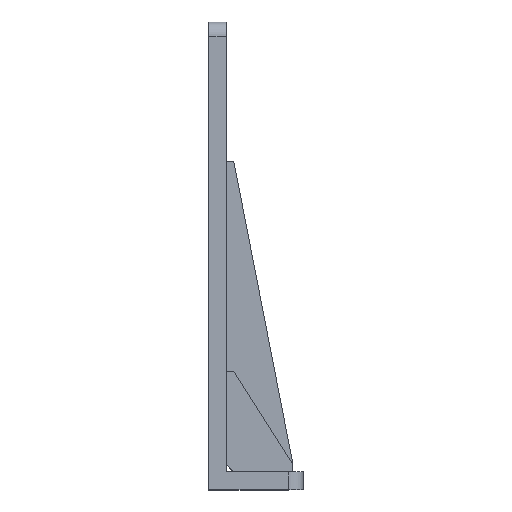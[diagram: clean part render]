
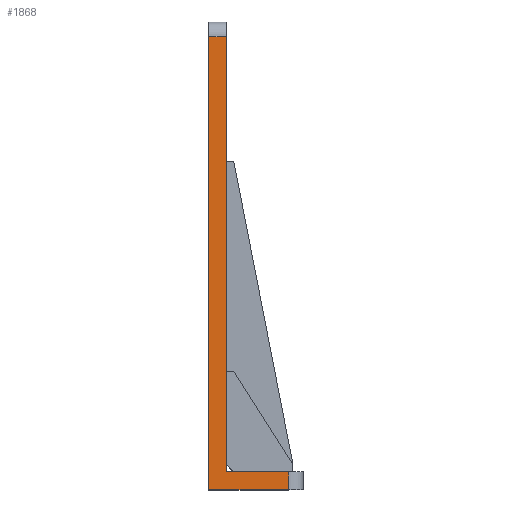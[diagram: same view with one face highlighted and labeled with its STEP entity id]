
A CAD part, top view. The second image highlights one B-rep face of the part: STEP entity #1868.
In plain terms, the highlighted planar face has unit normal (0, 0, 1).
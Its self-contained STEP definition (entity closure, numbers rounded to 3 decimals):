
#116 = VERTEX_POINT ( 'NONE', #424 ) ;
#146 = EDGE_LOOP ( 'NONE', ( #653, #2508, #4292, #520, #5218, #5912 ) ) ;
#180 = DIRECTION ( 'NONE',  ( -1., 0., 0. ) ) ;
#363 = EDGE_CURVE ( 'NONE', #4222, #3096, #2130, .T. ) ;
#399 = LINE ( 'NONE', #4485, #2997 ) ;
#424 = CARTESIAN_POINT ( 'NONE',  ( -12., 306., 75. ) ) ;
#520 = ORIENTED_EDGE ( 'NONE', *, *, #4432, .T. ) ;
#600 = LINE ( 'NONE', #5755, #4798 ) ;
#635 = CARTESIAN_POINT ( 'NONE',  ( 0., 12., 75. ) ) ;
#653 = ORIENTED_EDGE ( 'NONE', *, *, #1068, .T. ) ;
#713 = CARTESIAN_POINT ( 'NONE',  ( -12., 0., 75. ) ) ;
#891 = DIRECTION ( 'NONE',  ( 0., 0., -1. ) ) ;
#982 = DIRECTION ( 'NONE',  ( -1., 0., 0. ) ) ;
#1068 = EDGE_CURVE ( 'NONE', #2858, #4222, #3889, .T. ) ;
#1292 = VERTEX_POINT ( 'NONE', #4603 ) ;
#1317 = DIRECTION ( 'NONE',  ( 0., 1., 0. ) ) ;
#1428 = DIRECTION ( 'NONE',  ( -1., 0., 0. ) ) ;
#1752 = CARTESIAN_POINT ( 'NONE',  ( 0., 316., 75. ) ) ;
#1759 = AXIS2_PLACEMENT_3D ( 'NONE', #3547, #891, #1428 ) ;
#1868 = ADVANCED_FACE ( 'NONE', ( #4575 ), #4553, .F. ) ;
#2022 = EDGE_CURVE ( 'NONE', #3096, #1292, #4581, .T. ) ;
#2130 = LINE ( 'NONE', #3849, #3966 ) ;
#2180 = EDGE_CURVE ( 'NONE', #2790, #116, #600, .T. ) ;
#2257 = VECTOR ( 'NONE', #5309, 1000. ) ;
#2508 = ORIENTED_EDGE ( 'NONE', *, *, #363, .T. ) ;
#2790 = VERTEX_POINT ( 'NONE', #4856 ) ;
#2858 = VERTEX_POINT ( 'NONE', #713 ) ;
#2997 = VECTOR ( 'NONE', #5422, 1000. ) ;
#3096 = VERTEX_POINT ( 'NONE', #6329 ) ;
#3392 = CARTESIAN_POINT ( 'NONE',  ( 52., 0., 75. ) ) ;
#3437 = LINE ( 'NONE', #1752, #2257 ) ;
#3502 = VECTOR ( 'NONE', #982, 1000. ) ;
#3547 = CARTESIAN_POINT ( 'NONE',  ( 0., 0., 75. ) ) ;
#3833 = DIRECTION ( 'NONE',  ( 1., 0., 0. ) ) ;
#3849 = CARTESIAN_POINT ( 'NONE',  ( 42., 0., 75. ) ) ;
#3865 = EDGE_CURVE ( 'NONE', #116, #2858, #399, .T. ) ;
#3889 = LINE ( 'NONE', #3392, #4246 ) ;
#3966 = VECTOR ( 'NONE', #1317, 1000. ) ;
#4222 = VERTEX_POINT ( 'NONE', #4769 ) ;
#4246 = VECTOR ( 'NONE', #3833, 1000. ) ;
#4292 = ORIENTED_EDGE ( 'NONE', *, *, #2022, .T. ) ;
#4432 = EDGE_CURVE ( 'NONE', #1292, #2790, #3437, .T. ) ;
#4485 = CARTESIAN_POINT ( 'NONE',  ( -12., 0., 75. ) ) ;
#4553 = PLANE ( 'NONE',  #1759 ) ;
#4575 = FACE_OUTER_BOUND ( 'NONE', #146, .T. ) ;
#4581 = LINE ( 'NONE', #635, #3502 ) ;
#4603 = CARTESIAN_POINT ( 'NONE',  ( 0., 12., 75. ) ) ;
#4769 = CARTESIAN_POINT ( 'NONE',  ( 42., 0., 75. ) ) ;
#4798 = VECTOR ( 'NONE', #180, 1000. ) ;
#4856 = CARTESIAN_POINT ( 'NONE',  ( 0., 306., 75. ) ) ;
#5218 = ORIENTED_EDGE ( 'NONE', *, *, #2180, .T. ) ;
#5309 = DIRECTION ( 'NONE',  ( 0., 1., 0. ) ) ;
#5422 = DIRECTION ( 'NONE',  ( 0., -1., 0. ) ) ;
#5755 = CARTESIAN_POINT ( 'NONE',  ( 0., 306., 75. ) ) ;
#5912 = ORIENTED_EDGE ( 'NONE', *, *, #3865, .T. ) ;
#6329 = CARTESIAN_POINT ( 'NONE',  ( 42., 12., 75. ) ) ;
